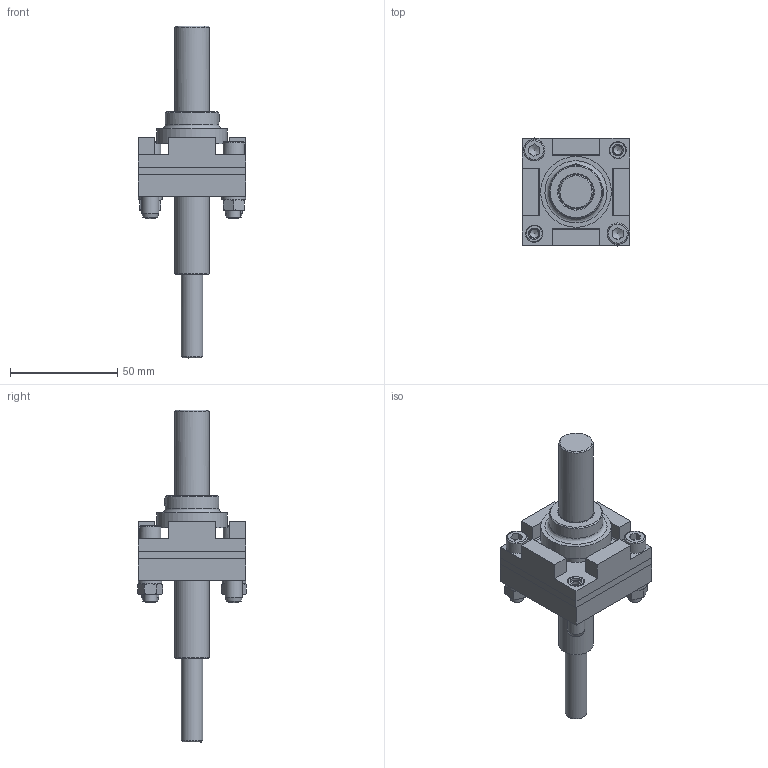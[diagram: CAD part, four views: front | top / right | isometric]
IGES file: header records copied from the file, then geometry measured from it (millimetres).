
Global section: file name: 06.00-SF-XX; native system: Autodesk Inventor 2019; preprocessor: unknown; author: AP.to; date: 20201113.114741; units: millimetre
Bounding box: 50 x 50.55 x 155 mm (x, y, z)
Volume: 76380.8 mm3; surface area: 42405.2 mm2
Topology: 17 solids, 17 shells, 236 faces, 596 edges, 405 vertices
Faces by surface type: bspline 236
